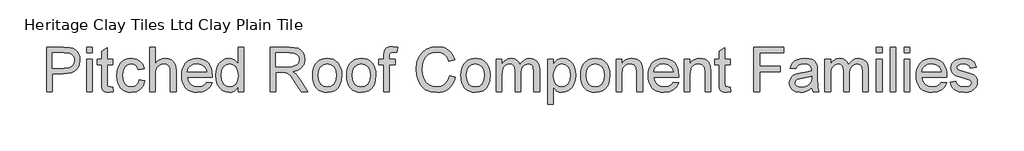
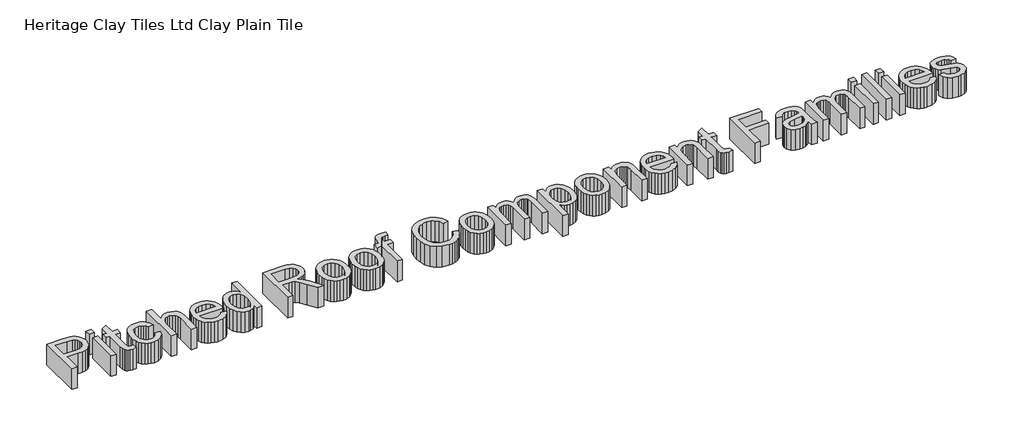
# One storey, part 3 of 3: 1 proxy.
"""IFC4 building model written with IfcOpenShell, lengths in millimetres."""

import ifcopenshell
import ifcopenshell.guid

model = None  # the IFC model being written
_history = None  # IfcOwnerHistory: only IFC2X3 demands one
_inside = {}  # id of a spatial element -> (the spatial element, [elements in it])
_under = {}  # id of a project, library or spatial element -> (it, [spatial elements below it])
_declared = {}  # id of a project -> (the project, [libraries it declares])
_typed = {}  # id of a type object -> (the type object, [elements of that type])
_made_of = {}  # id of a material, layer set ... -> (it, [elements and type objects made of it])


def new_model(schema):
    """Start an empty IFC model of exactly this schema.

    Asked for "IFC4X3", IfcOpenShell would pick the latest addendum, in which some entities
    have other attributes; the version numbers below select the first issue.
    IFC2X3 requires an IfcOwnerHistory on every rooted entity: one is made here for all.
    """
    global model, _history
    if schema == "IFC4X3":
        model = ifcopenshell.file(schema_version=(4, 3, 0, 0))
    else:
        model = ifcopenshell.file(schema=schema)
    _inside.clear()
    _under.clear()
    _declared.clear()
    _typed.clear()
    _made_of.clear()
    _history = None
    if model.schema == "IFC2X3":
        org = make("IfcOrganization", Name="unknown")
        user = make(
            "IfcPersonAndOrganization",
            ThePerson=make("IfcPerson", FamilyName="unknown"),
            TheOrganization=org,
        )
        app = make(
            "IfcApplication",
            ApplicationDeveloper=org,
            Version="unknown",
            ApplicationFullName="unknown",
            ApplicationIdentifier="unknown",
        )
        _history = make(
            "IfcOwnerHistory",
            OwningUser=user,
            OwningApplication=app,
            ChangeAction="ADDED",
            CreationDate=0,
        )
    return model


def make(cls, **values):
    """One entity of the class cls with the attributes given. An attribute that is None is left unset."""
    return model.create_entity(
        cls, **{name: value for name, value in values.items() if value is not None}
    )


def rooted(cls, **values):
    """An entity with a GlobalId (a new one), such as an element, a storey or a relation."""
    return make(cls, GlobalId=ifcopenshell.guid.new(), OwnerHistory=_history, **values)


def si_unit(unit_type, name, prefix=None):
    """IfcSIUnit, for example si_unit("LENGTHUNIT", "METRE", prefix="MILLI")."""
    return make("IfcSIUnit", UnitType=unit_type, Prefix=prefix, Name=name)


def assignment(units):
    """IfcUnitAssignment: the units of a project."""
    return None if units is None else make("IfcUnitAssignment", Units=units)


def point(xyz):
    """IfcCartesianPoint."""
    return None if xyz is None else make("IfcCartesianPoint", Coordinates=xyz)


def direction(xyz):
    """IfcDirection."""
    return None if xyz is None else make("IfcDirection", DirectionRatios=xyz)


def frame(location, z_axis=None, x_axis=None):
    """IfcAxis2Placement3D, a coordinate frame: its origin and axes. An axis left out is left unset."""
    return make(
        "IfcAxis2Placement3D",
        Location=point(location),
        Axis=direction(z_axis),
        RefDirection=direction(x_axis),
    )


def origin():
    """The frame at (0, 0, 0) with its axes left unset."""
    return frame((0.0, 0.0, 0.0))


def place(relative_to, where):
    """IfcLocalPlacement: puts the frame where relative to a parent placement (None: the world)."""
    return make(
        "IfcLocalPlacement", PlacementRelTo=relative_to, RelativePlacement=where
    )


def context(
    kind, dimensions, precision=None, world=None, true_north=None, identifier=None
):
    """IfcGeometricRepresentationContext, for example the 3D "Model" context."""
    return make(
        "IfcGeometricRepresentationContext",
        ContextIdentifier=identifier,
        ContextType=kind,
        CoordinateSpaceDimension=dimensions,
        Precision=precision,
        WorldCoordinateSystem=world,
        TrueNorth=true_north,
    )


def project(units=None, contexts=None):
    """IfcProject with its units and contexts."""
    return rooted(
        "IfcProject",
        Name="project",
        RepresentationContexts=contexts,
        UnitsInContext=assignment(units),
    )


def spatial(cls, under=None, at=None, **own):
    """A site, building, storey or space (cls), placed at a placement, below another one or the project."""
    s = rooted(cls, ObjectPlacement=at, **own)
    if under is not None:
        _under.setdefault(under.id(), (under, []))[1].append(s)
    return s


def polyline(points):
    """IfcPolyline through the points."""
    return make("IfcPolyline", Points=[point(p) for p in points])


def outline(outer, holes=None, kind="AREA"):
    """IfcArbitraryClosedProfileDef: a profile drawn as a closed curve; with holes, ...WithVoids."""
    if holes is None:
        return make("IfcArbitraryClosedProfileDef", ProfileType=kind, OuterCurve=outer)
    return make(
        "IfcArbitraryProfileDefWithVoids",
        ProfileType=kind,
        OuterCurve=outer,
        InnerCurves=holes,
    )


def extrude(swept, where, along, depth):
    """IfcExtrudedAreaSolid: the profile swept, set in the frame where, extruded along a direction by depth."""
    return make(
        "IfcExtrudedAreaSolid",
        SweptArea=swept,
        Position=where,
        ExtrudedDirection=direction(along),
        Depth=depth,
    )


def shape(context_of_items, identifier, shape_type, items):
    """IfcShapeRepresentation: the items that make up one representation, for example the "Body"."""
    return make(
        "IfcShapeRepresentation",
        ContextOfItems=context_of_items,
        RepresentationIdentifier=identifier,
        RepresentationType=shape_type,
        Items=items,
    )


def made_of(thing, what):
    """Note that an element or type object is made of a material, layer set ...; save() writes the relation."""
    if what is not None:
        _made_of.setdefault(what.id(), (what, []))[1].append(thing)
    return thing


def element(
    cls,
    number,
    at=None,
    inside=None,
    cuts=None,
    type_object=None,
    material=None,
    context=None,
    identifier="Body",
    shape_type=None,
    held_by="IfcProductDefinitionShape",
    body=None,
    shapes=None,
    **own,
):
    """One element of the class cls, such as IfcWall. Its Tag is "e" and its number.

    at: its placement. inside: the storey or other place that contains it. cuts: it is an
    opening in that element (IfcRelVoidsElement). A single representation is given by context,
    identifier, shape_type and body (its items); several are given by shapes. held_by: the class
    of the entity that holds the representations. save() writes the other relations.
    """
    e = rooted(cls, Tag="e%d" % number, ObjectPlacement=at, **own)
    if body is not None:
        shapes = [shape(context, identifier, shape_type, body)]
    if shapes is not None:
        e.Representation = make(held_by, Representations=shapes)
    if inside is not None:
        _inside.setdefault(inside.id(), (inside, []))[1].append(e)
    if cuts is not None:
        rooted(
            "IfcRelVoidsElement", RelatingBuildingElement=cuts, RelatedOpeningElement=e
        )
    if type_object is not None:
        _typed.setdefault(type_object.id(), (type_object, []))[1].append(e)
    return made_of(e, material)


def aggregate(whole, parts):
    """IfcRelAggregates: a whole, such as a stair, and the parts it consists of."""
    return rooted("IfcRelAggregates", RelatingObject=whole, RelatedObjects=parts)


def save(model, path):
    """Write the relations noted so far, then the file.

    IfcRelAggregates (storeys below a building ...), IfcRelContainedInSpatialStructure (elements
    in a storey), IfcRelDefinesByType, IfcRelAssociatesMaterial and IfcRelDeclares: one each for
    every whole, place, type object, material and project.
    """
    for whole, parts in _under.values():
        aggregate(whole, parts)
    for where, things in _inside.values():
        rooted(
            "IfcRelContainedInSpatialStructure",
            RelatedElements=things,
            RelatingStructure=where,
        )
    for kind, things in _typed.values():
        rooted("IfcRelDefinesByType", RelatedObjects=things, RelatingType=kind)
    for what, things in _made_of.values():
        rooted("IfcRelAssociatesMaterial", RelatedObjects=things, RelatingMaterial=what)
    for by, libraries in _declared.values():
        rooted("IfcRelDeclares", RelatingContext=by, RelatedDefinitions=libraries)
    model.write(path)


model = new_model("IFC4")

# Units and contexts
model_context = context("Model", 3, world=origin())
ifc_project = project(units=[si_unit("LENGTHUNIT", "METRE", prefix="MILLI")], contexts=[model_context])

# Site, building, storey
site = spatial("IfcSite", under=ifc_project)
building = spatial("IfcBuilding", under=site)
storey = spatial("IfcBuildingStorey", under=building, Name="Heritage Clay Tiles Ltd Clay Plain Tile", Elevation=3000.0)

# Proxy
placement = place(None, origin())
element("IfcBuildingElementProxy", 1, Name="600mm Arial", ObjectType="600mm Arial", at=placement, inside=storey, context=model_context, shape_type="SweptSolid", body=[
    extrude(outline(polyline([(-14807.3838747, 7586.1446587), (-14807.3838747, 7881.5292741), (-14697.9127208, 7881.5292741), (-14653.7781054, 7878.7167741), (-14634.0996199, 7873.4613654), (-14617.9007016, 7864.9066779), (-14604.8568314, 7852.6650914), (-14594.6434901, 7836.3489856), (-14588.0449324, 7817.1031924), (-14585.8454131, 7796.0725433), (-14591.7859179, 7761.2588414), (-14599.211549, 7746.0289736), (-14609.6074324, 7732.2504279), (-14623.8795177, 7720.8291539), (-14642.9337545, 7712.671101), (-14666.7701427, 7707.7762693), (-14695.3886824, 7706.1446587), (-14770.4607977, 7706.1446587), (-14770.4607977, 7586.1446587), (-14807.3838747, 7586.1446587)]), holes=[polyline([(-14770.4607977, 7743.0677356), (-14693.2252208, 7743.0677356), (-14660.4848362, 7746.4571587), (-14638.8502208, 7756.6254279), (-14626.7889227, 7772.9415337), (-14622.7684901, 7794.7744664), (-14625.1392833, 7811.3610049), (-14632.2516631, 7825.3513895), (-14643.222216, 7835.8802356), (-14657.1675285, 7842.0821587), (-14694.0906054, 7844.6061972), (-14770.4607977, 7844.6061972), (-14770.4607977, 7743.0677356)])]), frame((0.0, 0.0, 3000.0), z_axis=(0.0, 0.0, 1.0), x_axis=(1.0, 0.0, 0.0)), (0.0, 0.0, 1.0), 150.0),
    extrude(outline(polyline([(-14539.691567, 7844.6061972), (-14539.691567, 7881.5292741), (-14502.7684901, 7881.5292741), (-14502.7684901, 7844.6061972), (-14539.691567, 7844.6061972)])), frame((0.0, 0.0, 3000.0), z_axis=(0.0, 0.0, 1.0), x_axis=(1.0, 0.0, 0.0)), (0.0, 0.0, 1.0), 150.0),
    extrude(outline(polyline([(-14539.691567, 7586.1446587), (-14539.691567, 7803.0677356), (-14502.7684901, 7803.0677356), (-14502.7684901, 7586.1446587), (-14539.691567, 7586.1446587)])), frame((0.0, 0.0, 3000.0), z_axis=(0.0, 0.0, 1.0), x_axis=(1.0, 0.0, 0.0)), (0.0, 0.0, 1.0), 150.0),
    extrude(outline(polyline([(-14368.9223362, 7616.9379279), (-14364.3069516, 7585.0629279), (-14391.9271439, 7581.5292741), (-14409.6494997, 7583.061726), (-14422.8646439, 7587.6590818), (-14432.2035862, 7594.7444183), (-14438.2973362, 7603.7408125), (-14441.6507016, 7619.1915337), (-14442.7684901, 7645.639851), (-14442.7684901, 7766.1446587), (-14470.4607977, 7766.1446587), (-14470.4607977, 7803.0677356), (-14442.7684901, 7803.0677356), (-14442.7684901, 7855.7840818), (-14405.8454131, 7877.4908125), (-14405.8454131, 7803.0677356), (-14368.9223362, 7803.0677356), (-14368.9223362, 7766.1446587), (-14405.8454131, 7766.1446587), (-14405.8454131, 7646.7215818), (-14403.8982977, 7627.6831202), (-14397.5882016, 7620.9403318), (-14385.004067, 7618.452351), (-14368.9223362, 7616.9379279)])), frame((0.0, 0.0, 3000.0), z_axis=(0.0, 0.0, 1.0), x_axis=(1.0, 0.0, 0.0)), (0.0, 0.0, 1.0), 150.0),
    extrude(outline(polyline([(-14193.5377208, 7664.6061972), (-14156.6146439, 7659.9908125), (-14166.9091151, 7627.1512693), (-14186.254067, 7602.3345625), (-14212.8285862, 7586.7305962), (-14244.8117593, 7581.5292741), (-14265.5201427, 7583.3434267), (-14284.0876006, 7588.7858847), (-14300.5141331, 7597.8566479), (-14314.7997401, 7610.5557164), (-14326.3629913, 7626.644208), (-14334.6224564, 7645.8832404), (-14339.5781355, 7668.2728137), (-14341.2300285, 7693.8129279), (-14338.4085141, 7726.6705), (-14329.9439708, 7755.1470625), (-14315.7011824, 7778.1428558), (-14295.5449324, 7794.5581202), (-14271.4313506, 7804.4018702), (-14245.316567, 7807.6831202), (-14214.1176487, 7803.1759087), (-14189.1747401, 7789.6542741), (-14171.2811102, 7767.8393702), (-14161.2300285, 7738.452351), (-14198.1531054, 7733.8369664), (-14204.8508218, 7749.9457404), (-14215.2805093, 7761.4932164), (-14228.8652449, 7768.4433366), (-14245.0281054, 7770.7600433), (-14268.8892833, 7766.1987452), (-14287.8285862, 7752.514851), (-14300.1873602, 7728.9691779), (-14304.3069516, 7694.8225433), (-14300.2775045, 7660.2161731), (-14288.1891631, 7636.5893702), (-14269.5924083, 7622.9866058), (-14246.0377208, 7618.452351), (-14226.9181295, 7621.2828799), (-14211.2420477, 7629.7744664), (-14199.8388026, 7644.1434568), (-14193.5377208, 7664.6061972)])), frame((0.0, 0.0, 3000.0), z_axis=(0.0, 0.0, 1.0), x_axis=(1.0, 0.0, 0.0)), (0.0, 0.0, 1.0), 150.0),
    extrude(outline(polyline([(-14124.3069516, 7586.1446587), (-14124.3069516, 7881.5292741), (-14087.3838747, 7881.5292741), (-14087.3838747, 7772.9235049), (-14073.8216752, 7788.1308366), (-14058.5918074, 7798.9932164), (-14041.6942713, 7805.5106443), (-14023.129067, 7807.6831202), (-14000.8273843, 7805.312327), (-13981.6627208, 7798.1999472), (-13966.5725766, 7786.904875), (-13956.4944516, 7771.9860049), (-13950.8153651, 7751.4872068), (-13948.9223362, 7723.452351), (-13948.9223362, 7586.1446587), (-13985.8454131, 7586.1446587), (-13985.8454131, 7719.6302356), (-13988.7841151, 7742.7432164), (-13997.6002208, 7758.5725433), (-14011.8069516, 7767.7131683), (-14030.9175285, 7770.7600433), (-14046.5214949, 7768.7047549), (-14061.1699324, 7762.5388895), (-14073.3033458, 7752.8573991), (-14081.3622401, 7740.2552356), (-14085.878466, 7723.5064375), (-14087.3838747, 7701.3850433), (-14087.3838747, 7586.1446587), (-14124.3069516, 7586.1446587)])), frame((0.0, 0.0, 3000.0), z_axis=(0.0, 0.0, 1.0), x_axis=(1.0, 0.0, 0.0)), (0.0, 0.0, 1.0), 150.0),
    extrude(outline(polyline([(-13746.2781054, 7650.7600433), (-13710.0761824, 7646.1446587), (-13723.1200526, 7618.8670145), (-13743.9343554, 7598.4763895), (-13772.050341, 7585.7660529), (-13806.9992593, 7581.5292741), (-13829.9094155, 7583.3569484), (-13850.3225766, 7588.8399712), (-13868.2387425, 7597.9783426), (-13883.6579131, 7610.7720625), (-13896.0572521, 7626.8650613), (-13904.9139227, 7645.9012693), (-13910.2279252, 7667.8806863), (-13911.9992593, 7692.8033125), (-13910.2098963, 7718.5710409), (-13904.8418074, 7741.2828799), (-13895.8949925, 7760.9388294), (-13883.3694516, 7777.5388895), (-13867.9908458, 7790.7269904), (-13850.4848362, 7800.1470625), (-13830.8514227, 7805.7991058), (-13809.0906054, 7807.6831202), (-13788.0306595, 7805.803613), (-13768.9854372, 7800.1650914), (-13751.9549384, 7790.7675553), (-13736.9391631, 7777.6110049), (-13724.6818014, 7761.0470025), (-13715.9265429, 7741.4271106), (-13710.6733879, 7718.7513294), (-13708.9223362, 7693.0196587), (-13709.1386824, 7683.0677356), (-13875.0761824, 7683.0677356), (-13868.6849564, 7655.4295145), (-13853.8382016, 7635.1110049), (-13832.4109179, 7622.6170145), (-13806.2781054, 7618.452351), (-13786.6266631, 7620.3814375), (-13770.0761824, 7626.1686972), (-13756.6266631, 7636.1747068), (-13746.2781054, 7650.7600433)]), holes=[polyline([(-13875.0761824, 7719.9908125), (-13745.8454131, 7719.9908125), (-13750.8394035, 7739.4980241), (-13760.629067, 7753.452351), (-13782.1555093, 7766.4331202), (-13809.2348362, 7770.7600433), (-13834.1236583, 7767.3075193), (-13854.7035862, 7756.9499472), (-13869.0094756, 7740.8051154), (-13875.0761824, 7719.9908125)])]), frame((0.0, 0.0, 3000.0), z_axis=(0.0, 0.0, 1.0), x_axis=(1.0, 0.0, 0.0)), (0.0, 0.0, 1.0), 150.0),
    extrude(outline(polyline([(-13538.1531054, 7586.1446587), (-13538.1531054, 7620.9763895), (-13549.2002809, 7603.7182765), (-13562.582192, 7591.3910529), (-13578.2988386, 7583.9947188), (-13596.3502208, 7581.5292741), (-13620.2204131, 7585.0989856), (-13642.0713747, 7595.8081202), (-13660.5689708, 7612.9084808), (-13674.379067, 7635.6518702), (-13682.9788266, 7663.1188174), (-13685.8454131, 7694.389851), (-13683.2041872, 7725.2732645), (-13675.2805093, 7753.1638895), (-13662.0833939, 7776.4751875), (-13643.6218554, 7793.6206202), (-13621.2931295, 7804.1674952), (-13596.4944516, 7807.6831202), (-13578.4295477, 7805.1680962), (-13562.4559901, 7797.6230241), (-13548.9163266, 7786.0575193), (-13538.1531054, 7771.4811972), (-13538.1531054, 7881.5292741), (-13501.2300285, 7881.5292741), (-13501.2300285, 7586.1446587), (-13538.1531054, 7586.1446587)]), holes=[polyline([(-13648.9223362, 7694.5340818), (-13644.7576727, 7661.1356443), (-13632.2636824, 7637.3826395), (-13614.1086343, 7623.1849231), (-13592.9607977, 7618.452351), (-13571.8219756, 7622.968577), (-13554.1266631, 7636.5172549), (-13542.1464949, 7659.3507885), (-13538.1531054, 7691.7215818), (-13542.2186102, 7727.1122068), (-13554.4151247, 7751.6494664), (-13572.5611583, 7765.9823991), (-13594.4752208, 7770.7600433), (-13615.8394035, 7766.171702), (-13633.3454131, 7752.4066779), (-13645.0281054, 7728.7618462), (-13648.9223362, 7694.5340818)])]), frame((0.0, 0.0, 3000.0), z_axis=(0.0, 0.0, 1.0), x_axis=(1.0, 0.0, 0.0)), (0.0, 0.0, 1.0), 150.0),
    extrude(outline(polyline([(-13325.8454131, 7586.1446587), (-13325.8454131, 7881.5292741), (-13198.5617593, 7881.5292741), (-13164.3520237, 7879.5370866), (-13139.4632016, 7873.5605241), (-13121.2720958, 7862.5268702), (-13107.1555093, 7845.3634087), (-13098.0960141, 7824.0803558), (-13095.0761824, 7800.6879279), (-13100.0791872, 7771.5893702), (-13115.0882016, 7747.4667741), (-13126.4576427, 7737.6365457), (-13140.5539468, 7729.780476), (-13176.9271439, 7719.9908125), (-13155.941567, 7704.1975433), (-13126.0136824, 7666.1927356), (-13076.7588747, 7586.1446587), (-13119.6675285, 7586.1446587), (-13158.1050285, 7647.3706202), (-13185.8694516, 7687.8994664), (-13205.3766631, 7707.046101), (-13222.9367593, 7714.077351), (-13244.3550285, 7715.3754279), (-13288.9223362, 7715.3754279), (-13288.9223362, 7586.1446587), (-13325.8454131, 7586.1446587)]), holes=[polyline([(-13288.9223362, 7752.2985049), (-13206.2781054, 7752.2985049), (-13182.5431295, 7753.6055962), (-13164.1266631, 7757.5268702), (-13150.2624804, 7764.3237452), (-13140.1843554, 7774.2576395), (-13134.0455333, 7786.2738654), (-13131.9992593, 7799.3177356), (-13135.9025045, 7817.3285529), (-13147.6122401, 7831.8417741), (-13167.7594756, 7841.4150914), (-13196.9752208, 7844.6061972), (-13288.9223362, 7844.6061972), (-13288.9223362, 7752.2985049)])]), frame((0.0, 0.0, 3000.0), z_axis=(0.0, 0.0, 1.0), x_axis=(1.0, 0.0, 0.0)), (0.0, 0.0, 1.0), 150.0),
    extrude(outline(polyline([(-13044.3069516, 7694.6061972), (-13042.3102569, 7722.6996467), (-13036.3201727, 7746.9078799), (-13026.3366992, 7767.2308967), (-13012.3598362, 7783.6686972), (-12998.2883218, 7794.1750073), (-12982.7564708, 7801.6795145), (-12965.7642833, 7806.1822188), (-12947.3117593, 7807.6831202), (-12926.9414167, 7805.855446), (-12908.5226968, 7800.3724231), (-12892.0555994, 7791.2340517), (-12877.5401247, 7778.4403318), (-12865.6929191, 7762.4239556), (-12857.2306295, 7743.6176154), (-12852.1532557, 7722.0213113), (-12850.4607977, 7697.6350433), (-12853.4535862, 7660.3333606), (-12862.4319516, 7631.9379279), (-12877.1344756, 7610.6729039), (-12897.2997401, 7594.7624472), (-12921.2510622, 7584.8375674), (-12947.3117593, 7581.5292741), (-12967.9795778, 7583.3501875), (-12986.5695718, 7588.8129279), (-13003.0817413, 7597.9174952), (-13017.5160862, 7610.6638895), (-13029.2370898, 7626.8357645), (-13037.6092352, 7646.2167741), (-13042.6325225, 7668.8069183), (-13044.3069516, 7694.6061972)]), holes=[polyline([(-13007.3838747, 7694.6783125), (-13003.1110381, 7661.2618462), (-12990.2925285, 7637.4547549), (-12971.0016631, 7623.202952), (-12947.3117593, 7618.452351), (-12923.7300285, 7623.2299952), (-12904.4752208, 7637.5629279), (-12891.6567112, 7661.6855241), (-12887.3838747, 7695.8321587), (-12891.6837545, 7728.2750674), (-12904.5833939, 7751.7576395), (-12923.8652449, 7766.0094424), (-12947.3117593, 7770.7600433), (-12971.0016631, 7766.0274712), (-12990.2925285, 7751.8297549), (-13003.1110381, 7728.07675), (-13007.3838747, 7694.6783125)])]), frame((0.0, 0.0, 3000.0), z_axis=(0.0, 0.0, 1.0), x_axis=(1.0, 0.0, 0.0)), (0.0, 0.0, 1.0), 150.0),
    extrude(outline(polyline([(-12818.1531054, 7694.6061972), (-12816.1564107, 7722.6996467), (-12810.1663266, 7746.9078799), (-12800.182853, 7767.2308967), (-12786.2059901, 7783.6686972), (-12772.1344756, 7794.1750073), (-12756.6026247, 7801.6795145), (-12739.6104372, 7806.1822188), (-12721.1579131, 7807.6831202), (-12700.7875706, 7805.855446), (-12682.3688506, 7800.3724231), (-12665.9017533, 7791.2340517), (-12651.3862785, 7778.4403318), (-12639.539073, 7762.4239556), (-12631.0767833, 7743.6176154), (-12625.9994095, 7722.0213113), (-12624.3069516, 7697.6350433), (-12627.2997401, 7660.3333606), (-12636.2781054, 7631.9379279), (-12650.9806295, 7610.6729039), (-12671.1458939, 7594.7624472), (-12695.097216, 7584.8375674), (-12721.1579131, 7581.5292741), (-12741.8257316, 7583.3501875), (-12760.4157256, 7588.8129279), (-12776.9278951, 7597.9174952), (-12791.3622401, 7610.6638895), (-12803.0832437, 7626.8357645), (-12811.4553891, 7646.2167741), (-12816.4786764, 7668.8069183), (-12818.1531054, 7694.6061972)]), holes=[polyline([(-12781.2300285, 7694.6783125), (-12776.957192, 7661.2618462), (-12764.1386824, 7637.4547549), (-12744.847817, 7623.202952), (-12721.1579131, 7618.452351), (-12697.5761824, 7623.2299952), (-12678.3213747, 7637.5629279), (-12665.5028651, 7661.6855241), (-12661.2300285, 7695.8321587), (-12665.5299083, 7728.2750674), (-12678.4295477, 7751.7576395), (-12697.7113987, 7766.0094424), (-12721.1579131, 7770.7600433), (-12744.847817, 7766.0274712), (-12764.1386824, 7751.8297549), (-12776.957192, 7728.07675), (-12781.2300285, 7694.6783125)])]), frame((0.0, 0.0, 3000.0), z_axis=(0.0, 0.0, 1.0), x_axis=(1.0, 0.0, 0.0)), (0.0, 0.0, 1.0), 150.0),
    extrude(outline(polyline([(-12573.5377208, 7586.1446587), (-12573.5377208, 7766.1446587), (-12605.8454131, 7766.1446587), (-12605.8454131, 7803.0677356), (-12573.5377208, 7803.0677356), (-12573.5377208, 7824.9186972), (-12569.6434901, 7855.7119664), (-12562.2156054, 7867.9896106), (-12550.7492593, 7877.7071587), (-12534.7035862, 7884.0352837), (-12513.5377208, 7886.1446587), (-12479.8598362, 7882.1061972), (-12485.2684901, 7847.4908125), (-12506.5425285, 7849.2215818), (-12520.5779852, 7847.6891299), (-12529.7997401, 7843.0917741), (-12534.9109179, 7834.311726), (-12536.6146439, 7820.2311972), (-12536.6146439, 7803.0677356), (-12495.0761824, 7803.0677356), (-12495.0761824, 7766.1446587), (-12536.6146439, 7766.1446587), (-12536.6146439, 7586.1446587), (-12573.5377208, 7586.1446587)])), frame((0.0, 0.0, 3000.0), z_axis=(0.0, 0.0, 1.0), x_axis=(1.0, 0.0, 0.0)), (0.0, 0.0, 1.0), 150.0),
    extrude(outline(polyline([(-12135.0761824, 7691.1446587), (-12098.1531054, 7681.6254279), (-12105.4592953, 7658.6634387), (-12115.1903651, 7638.5995866), (-12127.3463146, 7621.4338714), (-12141.9271439, 7607.1662933), (-12158.6038266, 7595.9500974), (-12177.0473362, 7587.9385289), (-12197.2576727, 7583.1315878), (-12219.2348362, 7581.5292741), (-12262.0623602, 7586.3790337), (-12296.0737785, 7600.9283125), (-12322.1434901, 7624.6723029), (-12341.1458939, 7657.1061972), (-12352.7474564, 7695.2372068), (-12356.6146439, 7736.0725433), (-12352.2426487, 7779.1434568), (-12339.1266631, 7816.3369664), (-12317.9517833, 7846.4721827), (-12289.4031054, 7868.3682164), (-12255.5449324, 7881.7005481), (-12218.441567, 7886.1446587), (-12177.9577929, 7880.3934568), (-12160.3458639, 7873.2044544), (-12144.4872401, 7863.139851), (-12130.6433398, 7850.4655722), (-12119.0755814, 7835.4475433), (-12102.7684901, 7798.3802356), (-12139.691567, 7789.5821587), (-12152.4920477, 7816.5082404), (-12169.9800285, 7834.9787933), (-12192.3718554, 7845.6608847), (-12219.8838747, 7849.2215818), (-12251.5966151, 7845.2732645), (-12277.6482977, 7833.4283125), (-12297.4169276, 7814.9307164), (-12310.2805093, 7791.0244664), (-12317.3388026, 7763.999226), (-12319.691567, 7736.1446587), (-12316.9061102, 7702.0340818), (-12308.5497401, 7672.5388895), (-12294.3069516, 7648.7858847), (-12273.8622401, 7631.9018702), (-12249.3520237, 7621.8147308), (-12222.9127208, 7618.452351), (-12192.0924083, 7623.0316779), (-12166.410317, 7636.7696587), (-12147.0202929, 7659.5220625), (-12135.0761824, 7691.1446587)])), frame((0.0, 0.0, 3000.0), z_axis=(0.0, 0.0, 1.0), x_axis=(1.0, 0.0, 0.0)), (0.0, 0.0, 1.0), 150.0),
    extrude(outline(polyline([(-12061.2300285, 7694.6061972), (-12059.2333338, 7722.6996467), (-12053.2432497, 7746.9078799), (-12043.2597761, 7767.2308967), (-12029.2829131, 7783.6686972), (-12015.2113987, 7794.1750073), (-11999.6795477, 7801.6795145), (-11982.6873602, 7806.1822188), (-11964.2348362, 7807.6831202), (-11943.8644937, 7805.855446), (-11925.4457737, 7800.3724231), (-11908.9786764, 7791.2340517), (-11894.4632016, 7778.4403318), (-11882.6159961, 7762.4239556), (-11874.1537064, 7743.6176154), (-11869.0763326, 7722.0213113), (-11867.3838747, 7697.6350433), (-11870.3766631, 7660.3333606), (-11879.3550285, 7631.9379279), (-11894.0575526, 7610.6729039), (-11914.222817, 7594.7624472), (-11938.1741391, 7584.8375674), (-11964.2348362, 7581.5292741), (-11984.9026547, 7583.3501875), (-12003.4926487, 7588.8129279), (-12020.0048182, 7597.9174952), (-12034.4391631, 7610.6638895), (-12046.1601667, 7626.8357645), (-12054.5323122, 7646.2167741), (-12059.5555994, 7668.8069183), (-12061.2300285, 7694.6061972)]), holes=[polyline([(-12024.3069516, 7694.6783125), (-12020.0341151, 7661.2618462), (-12007.2156054, 7637.4547549), (-11987.9247401, 7623.202952), (-11964.2348362, 7618.452351), (-11940.6531054, 7623.2299952), (-11921.3982977, 7637.5629279), (-11908.5797881, 7661.6855241), (-11904.3069516, 7695.8321587), (-11908.6068314, 7728.2750674), (-11921.5064708, 7751.7576395), (-11940.7883218, 7766.0094424), (-11964.2348362, 7770.7600433), (-11987.9247401, 7766.0274712), (-12007.2156054, 7751.8297549), (-12020.0341151, 7728.07675), (-12024.3069516, 7694.6783125)])]), frame((0.0, 0.0, 3000.0), z_axis=(0.0, 0.0, 1.0), x_axis=(1.0, 0.0, 0.0)), (0.0, 0.0, 1.0), 150.0),
    extrude(outline(polyline([(-11825.8454131, 7586.1446587), (-11825.8454131, 7803.0677356), (-11788.9223362, 7803.0677356), (-11788.9223362, 7767.3706202), (-11777.816567, 7783.7678558), (-11763.5377208, 7796.6134087), (-11746.5725766, 7804.9156924), (-11727.4079131, 7807.6831202), (-11706.8730574, 7804.8616058), (-11690.4127208, 7796.3970625), (-11678.1170477, 7782.8483847), (-11670.0761824, 7764.7744664), (-11656.6176487, 7783.5470025), (-11641.2660862, 7796.9559568), (-11624.0214949, 7805.0013294), (-11604.8838747, 7807.6831202), (-11577.128466, 7803.2209808), (-11556.6026247, 7789.8345625), (-11543.9193314, 7767.1632885), (-11539.691567, 7734.8465818), (-11539.691567, 7586.1446587), (-11576.6146439, 7586.1446587), (-11576.6146439, 7718.9811972), (-11580.0401247, 7749.8105241), (-11584.8538266, 7758.311125), (-11592.4439708, 7764.9908125), (-11602.206591, 7769.3177356), (-11613.5377208, 7770.7600433), (-11633.5407256, 7767.0641299), (-11649.847817, 7755.9763895), (-11660.6921679, 7736.7396106), (-11664.3069516, 7708.5965818), (-11664.3069516, 7586.1446587), (-11701.2300285, 7586.1446587), (-11701.2300285, 7723.0917741), (-11703.3664468, 7743.9691779), (-11709.7757016, 7758.8610049), (-11721.0527449, 7767.7852837), (-11737.7925285, 7770.7600433), (-11752.0172881, 7768.7768702), (-11765.1242593, 7762.827351), (-11775.941567, 7753.0557164), (-11783.2973362, 7739.6061972), (-11787.5160862, 7720.9463414), (-11788.9223362, 7695.5436972), (-11788.9223362, 7586.1446587), (-11825.8454131, 7586.1446587)])), frame((0.0, 0.0, 3000.0), z_axis=(0.0, 0.0, 1.0), x_axis=(1.0, 0.0, 0.0)), (0.0, 0.0, 1.0), 150.0),
    extrude(outline(polyline([(-11484.3069516, 7503.0677356), (-11484.3069516, 7803.0677356), (-11447.3838747, 7803.0677356), (-11447.3838747, 7766.8658125), (-11435.3406054, 7784.7233847), (-11421.8550285, 7797.4787933), (-11406.1338747, 7805.1320385), (-11387.3838747, 7807.6831202), (-11362.4139227, 7804.1134087), (-11340.5809901, 7793.4042741), (-11322.8045477, 7776.2047549), (-11310.004067, 7753.1638895), (-11302.269692, 7725.9583606), (-11299.691567, 7696.264851), (-11302.6032256, 7664.687327), (-11311.3382016, 7636.4451395), (-11325.6170477, 7612.9715818), (-11345.160317, 7595.6999472), (-11367.9217352, 7585.0719424), (-11391.8550285, 7581.5292741), (-11408.8291872, 7583.9000674), (-11423.9824324, 7591.0124472), (-11436.9541872, 7601.748625), (-11447.3838747, 7614.9908125), (-11447.3838747, 7503.0677356), (-11484.3069516, 7503.0677356)]), holes=[polyline([(-11447.3838747, 7692.8754279), (-11443.3904852, 7659.7744664), (-11431.410317, 7636.6254279), (-11413.7330333, 7622.9956202), (-11392.6482977, 7618.452351), (-11371.2210141, 7623.1578799), (-11353.0930093, 7637.2744664), (-11340.7342352, 7661.2708606), (-11336.6146439, 7695.6158125), (-11340.6350766, 7728.5364856), (-11352.6963747, 7752.0100433), (-11370.3466151, 7766.0725433), (-11391.1338747, 7770.7600433), (-11412.0022641, 7765.7750674), (-11430.3285862, 7750.8201395), (-11443.1200526, 7726.3640097), (-11447.3838747, 7692.8754279)])]), frame((0.0, 0.0, 3000.0), z_axis=(0.0, 0.0, 1.0), x_axis=(1.0, 0.0, 0.0)), (0.0, 0.0, 1.0), 150.0),
    extrude(outline(polyline([(-11267.3838747, 7694.6061972), (-11265.38718, 7722.6996467), (-11259.3970958, 7746.9078799), (-11249.4136223, 7767.2308967), (-11235.4367593, 7783.6686972), (-11221.3652449, 7794.1750073), (-11205.8333939, 7801.6795145), (-11188.8412064, 7806.1822188), (-11170.3886824, 7807.6831202), (-11150.0183398, 7805.855446), (-11131.5996199, 7800.3724231), (-11115.1325225, 7791.2340517), (-11100.6170477, 7778.4403318), (-11088.7698422, 7762.4239556), (-11080.3075526, 7743.6176154), (-11075.2301788, 7722.0213113), (-11073.5377208, 7697.6350433), (-11076.5305093, 7660.3333606), (-11085.5088747, 7631.9379279), (-11100.2113987, 7610.6729039), (-11120.3766631, 7594.7624472), (-11144.3279852, 7584.8375674), (-11170.3886824, 7581.5292741), (-11191.0565009, 7583.3501875), (-11209.6464949, 7588.8129279), (-11226.1586643, 7597.9174952), (-11240.5930093, 7610.6638895), (-11252.3140129, 7626.8357645), (-11260.6861583, 7646.2167741), (-11265.7094456, 7668.8069183), (-11267.3838747, 7694.6061972)]), holes=[polyline([(-11230.4607977, 7694.6783125), (-11226.1879612, 7661.2618462), (-11213.3694516, 7637.4547549), (-11194.0785862, 7623.202952), (-11170.3886824, 7618.452351), (-11146.8069516, 7623.2299952), (-11127.5521439, 7637.5629279), (-11114.7336343, 7661.6855241), (-11110.4607977, 7695.8321587), (-11114.7606776, 7728.2750674), (-11127.660317, 7751.7576395), (-11146.9421679, 7766.0094424), (-11170.3886824, 7770.7600433), (-11194.0785862, 7766.0274712), (-11213.3694516, 7751.8297549), (-11226.1879612, 7728.07675), (-11230.4607977, 7694.6783125)])]), frame((0.0, 0.0, 3000.0), z_axis=(0.0, 0.0, 1.0), x_axis=(1.0, 0.0, 0.0)), (0.0, 0.0, 1.0), 150.0),
    extrude(outline(polyline([(-11031.9992593, 7586.1446587), (-11031.9992593, 7803.0677356), (-10995.0761824, 7803.0677356), (-10995.0761824, 7772.7792741), (-10982.2486583, 7788.0497068), (-10966.8430093, 7798.9571587), (-10948.8592352, 7805.5016299), (-10928.2973362, 7807.6831202), (-10910.097216, 7805.9253077), (-10893.4295477, 7800.6518702), (-10879.5293074, 7792.5208606), (-10869.6314708, 7782.1903318), (-10858.5617593, 7755.0388895), (-10856.6146439, 7719.3417741), (-10856.6146439, 7586.1446587), (-10893.5377208, 7586.1446587), (-10893.5377208, 7714.3658125), (-10897.7925285, 7747.0340818), (-10903.6789468, 7756.7606443), (-10912.8285862, 7764.3057164), (-10924.5563506, 7769.1464616), (-10938.1771439, 7770.7600433), (-10959.8027449, 7767.1362452), (-10978.2372401, 7756.264851), (-10985.6042773, 7747.3901515), (-10990.8664468, 7735.2612452), (-10995.0761824, 7701.2408125), (-10995.0761824, 7586.1446587), (-11031.9992593, 7586.1446587)])), frame((0.0, 0.0, 3000.0), z_axis=(0.0, 0.0, 1.0), x_axis=(1.0, 0.0, 0.0)), (0.0, 0.0, 1.0), 150.0),
    extrude(outline(polyline([(-10653.9704131, 7650.7600433), (-10617.7684901, 7646.1446587), (-10630.8123602, 7618.8670145), (-10651.6266631, 7598.4763895), (-10679.7426487, 7585.7660529), (-10714.691567, 7581.5292741), (-10737.6017232, 7583.3569484), (-10758.0148843, 7588.8399712), (-10775.9310502, 7597.9783426), (-10791.3502208, 7610.7720625), (-10803.7495598, 7626.8650613), (-10812.6062304, 7645.9012693), (-10817.9202328, 7667.8806863), (-10819.691567, 7692.8033125), (-10817.902204, 7718.5710409), (-10812.5341151, 7741.2828799), (-10803.5873002, 7760.9388294), (-10791.0617593, 7777.5388895), (-10775.6831535, 7790.7269904), (-10758.1771439, 7800.1470625), (-10738.5437304, 7805.7991058), (-10716.7829131, 7807.6831202), (-10695.7229672, 7805.803613), (-10676.6777449, 7800.1650914), (-10659.6472461, 7790.7675553), (-10644.6314708, 7777.6110049), (-10632.374109, 7761.0470025), (-10623.6188506, 7741.4271106), (-10618.3656956, 7718.7513294), (-10616.6146439, 7693.0196587), (-10616.8309901, 7683.0677356), (-10782.7684901, 7683.0677356), (-10776.3772641, 7655.4295145), (-10761.5305093, 7635.1110049), (-10740.1032256, 7622.6170145), (-10713.9704131, 7618.452351), (-10694.3189708, 7620.3814375), (-10677.7684901, 7626.1686972), (-10664.3189708, 7636.1747068), (-10653.9704131, 7650.7600433)]), holes=[polyline([(-10782.7684901, 7719.9908125), (-10653.5377208, 7719.9908125), (-10658.5317112, 7739.4980241), (-10668.3213747, 7753.452351), (-10689.847817, 7766.4331202), (-10716.9271439, 7770.7600433), (-10741.815966, 7767.3075193), (-10762.3958939, 7756.9499472), (-10776.7017833, 7740.8051154), (-10782.7684901, 7719.9908125)])]), frame((0.0, 0.0, 3000.0), z_axis=(0.0, 0.0, 1.0), x_axis=(1.0, 0.0, 0.0)), (0.0, 0.0, 1.0), 150.0),
    extrude(outline(polyline([(-10579.691567, 7586.1446587), (-10579.691567, 7803.0677356), (-10542.7684901, 7803.0677356), (-10542.7684901, 7772.7792741), (-10529.940966, 7788.0497068), (-10514.535317, 7798.9571587), (-10496.5515429, 7805.5016299), (-10475.9896439, 7807.6831202), (-10457.7895237, 7805.9253077), (-10441.1218554, 7800.6518702), (-10427.2216151, 7792.5208606), (-10417.3237785, 7782.1903318), (-10406.254067, 7755.0388895), (-10404.3069516, 7719.3417741), (-10404.3069516, 7586.1446587), (-10441.2300285, 7586.1446587), (-10441.2300285, 7714.3658125), (-10445.4848362, 7747.0340818), (-10451.3712545, 7756.7606443), (-10460.5208939, 7764.3057164), (-10472.2486583, 7769.1464616), (-10485.8694516, 7770.7600433), (-10507.4950526, 7767.1362452), (-10525.9295477, 7756.264851), (-10533.296585, 7747.3901515), (-10538.5587545, 7735.2612452), (-10542.7684901, 7701.2408125), (-10542.7684901, 7586.1446587), (-10579.691567, 7586.1446587)])), frame((0.0, 0.0, 3000.0), z_axis=(0.0, 0.0, 1.0), x_axis=(1.0, 0.0, 0.0)), (0.0, 0.0, 1.0), 150.0),
    extrude(outline(polyline([(-10275.0761824, 7616.9379279), (-10270.4607977, 7585.0629279), (-10298.0809901, 7581.5292741), (-10315.8033458, 7583.061726), (-10329.0184901, 7587.6590818), (-10338.3574324, 7594.7444183), (-10344.4511824, 7603.7408125), (-10347.8045477, 7619.1915337), (-10348.9223362, 7645.639851), (-10348.9223362, 7766.1446587), (-10376.6146439, 7766.1446587), (-10376.6146439, 7803.0677356), (-10348.9223362, 7803.0677356), (-10348.9223362, 7855.7840818), (-10311.9992593, 7877.4908125), (-10311.9992593, 7803.0677356), (-10275.0761824, 7803.0677356), (-10275.0761824, 7766.1446587), (-10311.9992593, 7766.1446587), (-10311.9992593, 7646.7215818), (-10310.0521439, 7627.6831202), (-10303.7420477, 7620.9403318), (-10291.1579131, 7618.452351), (-10275.0761824, 7616.9379279)])), frame((0.0, 0.0, 3000.0), z_axis=(0.0, 0.0, 1.0), x_axis=(1.0, 0.0, 0.0)), (0.0, 0.0, 1.0), 150.0),
    extrude(outline(polyline([(-10118.1531054, 7586.1446587), (-10118.1531054, 7881.5292741), (-9919.691567, 7881.5292741), (-9919.691567, 7844.6061972), (-10081.2300285, 7844.6061972), (-10081.2300285, 7756.9138895), (-9942.7684901, 7756.9138895), (-9942.7684901, 7719.9908125), (-10081.2300285, 7719.9908125), (-10081.2300285, 7586.1446587), (-10118.1531054, 7586.1446587)])), frame((0.0, 0.0, 3000.0), z_axis=(0.0, 0.0, 1.0), x_axis=(1.0, 0.0, 0.0)), (0.0, 0.0, 1.0), 150.0),
    extrude(outline(polyline([(-9735.0761824, 7613.8369664), (-9752.7174083, 7598.7107645), (-9770.8814708, 7588.8129279), (-9789.9830333, 7583.3501875), (-9810.4367593, 7581.5292741), (-9841.2931295, 7585.9102837), (-9864.0545477, 7599.0533125), (-9878.0900045, 7619.0112452), (-9882.7684901, 7643.8369664), (-9881.0016631, 7659.1434568), (-9875.7011824, 7673.0436972), (-9867.5251006, 7684.9427356), (-9857.1314708, 7694.2456202), (-9831.2781054, 7706.3610049), (-9799.3309901, 7711.9138895), (-9761.5785862, 7717.7552356), (-9735.2925285, 7724.6061972), (-9735.0761824, 7732.827351), (-9737.6182497, 7749.3057164), (-9745.2444516, 7760.0869664), (-9762.2997401, 7768.0917741), (-9786.0617593, 7770.7600433), (-9808.0569516, 7768.984202), (-9823.4175285, 7763.6566779), (-9833.8922881, 7753.8039135), (-9841.2300285, 7738.452351), (-9878.1531054, 7743.0677356), (-9871.7438506, 7763.2600433), (-9862.1795477, 7779.1254279), (-9848.5677689, 7791.2588414), (-9830.0160862, 7800.2552356), (-9807.3267833, 7805.8261491), (-9781.3021439, 7807.6831202), (-9756.3412064, 7806.0424952), (-9736.5545477, 7801.1206202), (-9721.6356776, 7793.7197789), (-9711.2781054, 7784.6422549), (-9704.4091151, 7773.4192981), (-9699.9559901, 7759.5821587), (-9698.1531054, 7727.2744664), (-9698.1531054, 7681.3369664), (-9696.2781054, 7617.1903318), (-9688.9223362, 7586.1446587), (-9725.8454131, 7586.1446587), (-9735.0761824, 7613.8369664)]), holes=[polyline([(-9735.0761824, 7687.6831202), (-9794.6434901, 7676.3610049), (-9826.410317, 7670.3754279), (-9840.7973362, 7660.639851), (-9845.8454131, 7646.4331202), (-9843.0960141, 7635.4535529), (-9834.847817, 7626.4571587), (-9821.2811102, 7620.4535529), (-9802.5761824, 7618.452351), (-9782.7444516, 7620.6608847), (-9765.2204131, 7627.2864856), (-9751.0136824, 7637.0491058), (-9741.1338747, 7648.6686972), (-9736.7528651, 7660.639851), (-9735.2925285, 7677.2263895), (-9735.0761824, 7687.6831202)])]), frame((0.0, 0.0, 3000.0), z_axis=(0.0, 0.0, 1.0), x_axis=(1.0, 0.0, 0.0)), (0.0, 0.0, 1.0), 150.0),
    extrude(outline(polyline([(-9647.3838747, 7586.1446587), (-9647.3838747, 7803.0677356), (-9610.4607977, 7803.0677356), (-9610.4607977, 7767.3706202), (-9599.3550285, 7783.7678558), (-9585.0761824, 7796.6134087), (-9568.1110381, 7804.9156924), (-9548.9463747, 7807.6831202), (-9528.4115189, 7804.8616058), (-9511.9511824, 7796.3970625), (-9499.6555093, 7782.8483847), (-9491.6146439, 7764.7744664), (-9478.1561102, 7783.5470025), (-9462.8045477, 7796.9559568), (-9445.5599564, 7805.0013294), (-9426.4223362, 7807.6831202), (-9398.6669276, 7803.2209808), (-9378.1410862, 7789.8345625), (-9365.4577929, 7767.1632885), (-9361.2300285, 7734.8465818), (-9361.2300285, 7586.1446587), (-9398.1531054, 7586.1446587), (-9398.1531054, 7718.9811972), (-9401.5785862, 7749.8105241), (-9406.3922881, 7758.311125), (-9413.9824324, 7764.9908125), (-9423.7450526, 7769.3177356), (-9435.0761824, 7770.7600433), (-9455.0791872, 7767.0641299), (-9471.3862785, 7755.9763895), (-9482.2306295, 7736.7396106), (-9485.8454131, 7708.5965818), (-9485.8454131, 7586.1446587), (-9522.7684901, 7586.1446587), (-9522.7684901, 7723.0917741), (-9524.9049083, 7743.9691779), (-9531.3141631, 7758.8610049), (-9542.5912064, 7767.7852837), (-9559.3309901, 7770.7600433), (-9573.5557497, 7768.7768702), (-9586.6627208, 7762.827351), (-9597.4800285, 7753.0557164), (-9604.8357977, 7739.6061972), (-9609.0545477, 7720.9463414), (-9610.4607977, 7695.5436972), (-9610.4607977, 7586.1446587), (-9647.3838747, 7586.1446587)])), frame((0.0, 0.0, 3000.0), z_axis=(0.0, 0.0, 1.0), x_axis=(1.0, 0.0, 0.0)), (0.0, 0.0, 1.0), 150.0),
    extrude(outline(polyline([(-9305.8454131, 7844.6061972), (-9305.8454131, 7881.5292741), (-9268.9223362, 7881.5292741), (-9268.9223362, 7844.6061972), (-9305.8454131, 7844.6061972)])), frame((0.0, 0.0, 3000.0), z_axis=(0.0, 0.0, 1.0), x_axis=(1.0, 0.0, 0.0)), (0.0, 0.0, 1.0), 150.0),
    extrude(outline(polyline([(-9305.8454131, 7586.1446587), (-9305.8454131, 7803.0677356), (-9268.9223362, 7803.0677356), (-9268.9223362, 7586.1446587), (-9305.8454131, 7586.1446587)])), frame((0.0, 0.0, 3000.0), z_axis=(0.0, 0.0, 1.0), x_axis=(1.0, 0.0, 0.0)), (0.0, 0.0, 1.0), 150.0),
    extrude(outline(polyline([(-9213.5377208, 7586.1446587), (-9213.5377208, 7881.5292741), (-9176.6146439, 7881.5292741), (-9176.6146439, 7586.1446587), (-9213.5377208, 7586.1446587)])), frame((0.0, 0.0, 3000.0), z_axis=(0.0, 0.0, 1.0), x_axis=(1.0, 0.0, 0.0)), (0.0, 0.0, 1.0), 150.0),
    extrude(outline(polyline([(-9121.2300285, 7844.6061972), (-9121.2300285, 7881.5292741), (-9084.3069516, 7881.5292741), (-9084.3069516, 7844.6061972), (-9121.2300285, 7844.6061972)])), frame((0.0, 0.0, 3000.0), z_axis=(0.0, 0.0, 1.0), x_axis=(1.0, 0.0, 0.0)), (0.0, 0.0, 1.0), 150.0),
    extrude(outline(polyline([(-9121.2300285, 7586.1446587), (-9121.2300285, 7803.0677356), (-9084.3069516, 7803.0677356), (-9084.3069516, 7586.1446587), (-9121.2300285, 7586.1446587)])), frame((0.0, 0.0, 3000.0), z_axis=(0.0, 0.0, 1.0), x_axis=(1.0, 0.0, 0.0)), (0.0, 0.0, 1.0), 150.0),
    extrude(outline(polyline([(-8877.0473362, 7650.7600433), (-8840.8454131, 7646.1446587), (-8853.8892833, 7618.8670145), (-8874.7035862, 7598.4763895), (-8902.8195718, 7585.7660529), (-8937.7684901, 7581.5292741), (-8960.6786463, 7583.3569484), (-8981.0918074, 7588.8399712), (-8999.0079732, 7597.9783426), (-9014.4271439, 7610.7720625), (-9026.8264828, 7626.8650613), (-9035.6831535, 7645.9012693), (-9040.9971559, 7667.8806863), (-9042.7684901, 7692.8033125), (-9040.9791271, 7718.5710409), (-9035.6110381, 7741.2828799), (-9026.6642232, 7760.9388294), (-9014.1386824, 7777.5388895), (-8998.7600766, 7790.7269904), (-8981.254067, 7800.1470625), (-8961.6206535, 7805.7991058), (-8939.8598362, 7807.6831202), (-8918.7998903, 7805.803613), (-8899.7546679, 7800.1650914), (-8882.7241691, 7790.7675553), (-8867.7083939, 7777.6110049), (-8855.4510321, 7761.0470025), (-8846.6957737, 7741.4271106), (-8841.4426187, 7718.7513294), (-8839.691567, 7693.0196587), (-8839.9079131, 7683.0677356), (-9005.8454131, 7683.0677356), (-8999.4541872, 7655.4295145), (-8984.6074324, 7635.1110049), (-8963.1801487, 7622.6170145), (-8937.0473362, 7618.452351), (-8917.3958939, 7620.3814375), (-8900.8454131, 7626.1686972), (-8887.3958939, 7636.1747068), (-8877.0473362, 7650.7600433)]), holes=[polyline([(-9005.8454131, 7719.9908125), (-8876.6146439, 7719.9908125), (-8881.6086343, 7739.4980241), (-8891.3982977, 7753.452351), (-8912.9247401, 7766.4331202), (-8940.004067, 7770.7600433), (-8964.8928891, 7767.3075193), (-8985.472817, 7756.9499472), (-8999.7787064, 7740.8051154), (-9005.8454131, 7719.9908125)])]), frame((0.0, 0.0, 3000.0), z_axis=(0.0, 0.0, 1.0), x_axis=(1.0, 0.0, 0.0)), (0.0, 0.0, 1.0), 150.0),
    extrude(outline(polyline([(-8816.6146439, 7650.7600433), (-8779.691567, 7655.3754279), (-8773.8682497, 7639.5821587), (-8762.6002208, 7627.9715818), (-8745.8153651, 7620.8321587), (-8723.441567, 7618.452351), (-8701.3382016, 7620.6338414), (-8685.7973362, 7627.1783125), (-8676.6026247, 7636.6614856), (-8673.5377208, 7647.6590818), (-8676.6206535, 7657.0701395), (-8685.8694516, 7664.2456202), (-8723.8742593, 7674.7744664), (-8779.4752208, 7692.8393702), (-8793.5467352, 7701.9168943), (-8803.7420477, 7713.9331202), (-8809.9349564, 7728.1218222), (-8811.9992593, 7743.7167741), (-8810.3406054, 7758.0226635), (-8805.3646439, 7771.2287933), (-8797.5220958, 7782.812327), (-8787.2636824, 7792.2504279), (-8763.7901247, 7803.1759087), (-8732.0232977, 7807.6831202), (-8707.9908458, 7805.8712212), (-8687.0954131, 7800.4355241), (-8670.2925285, 7791.9078799), (-8658.5377208, 7780.8201395), (-8650.7492593, 7766.3519904), (-8645.8454131, 7747.6831202), (-8682.7684901, 7743.0677356), (-8687.4289468, 7754.687327), (-8696.6507016, 7763.4403318), (-8710.5238987, 7768.9301154), (-8729.1386824, 7770.7600433), (-8750.3406054, 7769.0112452), (-8764.4752208, 7763.764851), (-8772.425942, 7756.1927356), (-8775.0761824, 7747.4667741), (-8770.6771439, 7736.7215818), (-8756.9031054, 7728.5725433), (-8725.1002208, 7720.7119664), (-8670.9055093, 7703.3321587), (-8656.5906054, 7695.0208606), (-8645.7372401, 7683.6446587), (-8638.8952929, 7669.1674952), (-8636.6146439, 7651.5533125), (-8639.2919276, 7633.3441779), (-8647.3237785, 7616.2167741), (-8660.4037064, 7601.51425), (-8678.2252208, 7590.5797549), (-8699.7516631, 7583.7918943), (-8723.9463747, 7581.5292741), (-8761.175942, 7585.8922549), (-8788.3454131, 7598.9811972), (-8806.4824324, 7620.6518702), (-8816.6146439, 7650.7600433)])), frame((0.0, 0.0, 3000.0), z_axis=(0.0, 0.0, 1.0), x_axis=(1.0, 0.0, 0.0)), (0.0, 0.0, 1.0), 150.0),
])

save(model, "model.ifc")
